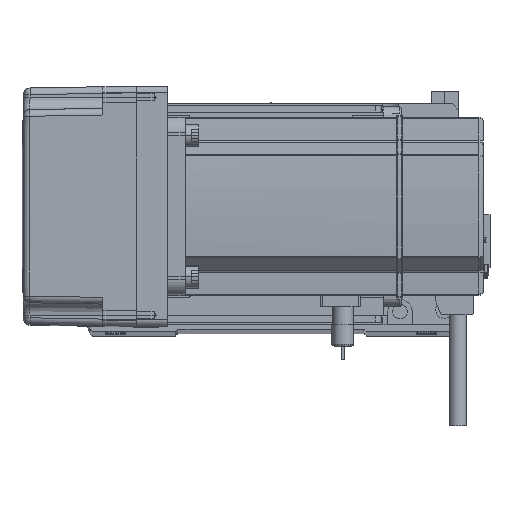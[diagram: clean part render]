
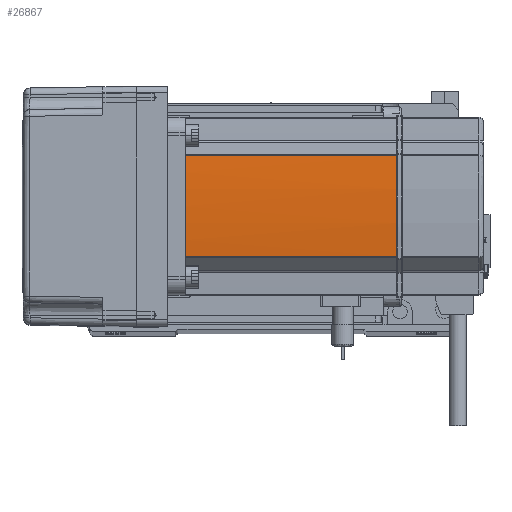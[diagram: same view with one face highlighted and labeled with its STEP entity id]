
A CAD part, top view. The second image highlights one B-rep face of the part: STEP entity #26867.
In plain terms, the highlighted cylindrical face has radius 270 mm (diameter 540 mm), a partial arc.
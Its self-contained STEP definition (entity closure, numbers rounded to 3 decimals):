
#1497 = DIRECTION ( 'NONE',  ( 0., 0., -1. ) ) ;
#3135 = EDGE_CURVE ( 'NONE', #11793, #19031, #27185, .T. ) ;
#3678 = DIRECTION ( 'NONE',  ( 0., 0., -1. ) ) ;
#5016 = CARTESIAN_POINT ( 'NONE',  ( 39.042, -22.724, 134. ) ) ;
#5933 = CIRCLE ( 'NONE', #38259, 270. ) ;
#6846 = ORIENTED_EDGE ( 'NONE', *, *, #58319, .T. ) ;
#9649 = EDGE_CURVE ( 'NONE', #58778, #56065, #5933, .T. ) ;
#11793 = VERTEX_POINT ( 'NONE', #36672 ) ;
#11936 = ORIENTED_EDGE ( 'NONE', *, *, #9649, .F. ) ;
#12635 = CARTESIAN_POINT ( 'NONE',  ( 40., -0.042, 134. ) ) ;
#12892 = FACE_OUTER_BOUND ( 'NONE', #30931, .T. ) ;
#13243 = DIRECTION ( 'NONE',  ( -1., 0., 0. ) ) ;
#17336 = DIRECTION ( 'NONE',  ( -1., 0., 0. ) ) ;
#19031 = VERTEX_POINT ( 'NONE', #19344 ) ;
#19344 = CARTESIAN_POINT ( 'NONE',  ( 40., 0.127, 134. ) ) ;
#19506 = VERTEX_POINT ( 'NONE', #5016 ) ;
#20071 = ORIENTED_EDGE ( 'NONE', *, *, #3135, .F. ) ;
#21472 = CYLINDRICAL_SURFACE ( 'NONE', #21855, 270. ) ;
#21855 = AXIS2_PLACEMENT_3D ( 'NONE', #22229, #49161, #13243 ) ;
#22229 = CARTESIAN_POINT ( 'NONE',  ( -230., 0., 58. ) ) ;
#22475 = VECTOR ( 'NONE', #57804, 1000. ) ;
#24924 = AXIS2_PLACEMENT_3D ( 'NONE', #46109, #1497, #28049 ) ;
#26430 = CARTESIAN_POINT ( 'NONE',  ( 39.042, -22.724, 39. ) ) ;
#26867 = ADVANCED_FACE ( 'NONE', ( #12892 ), #21472, .T. ) ;
#27185 = B_SPLINE_CURVE_WITH_KNOTS ( 'NONE', 3,
 ( #44196, #12635, #31089, #44600 ),
 .UNSPECIFIED., .F., .F.,
 ( 4, 4 ),
 ( 0., 1. ),
 .UNSPECIFIED. ) ;
#27260 = CIRCLE ( 'NONE', #33338, 270. ) ;
#28049 = DIRECTION ( 'NONE',  ( -1., 0., 0. ) ) ;
#29590 = VERTEX_POINT ( 'NONE', #47306 ) ;
#30458 = CIRCLE ( 'NONE', #24924, 270. ) ;
#30931 = EDGE_LOOP ( 'NONE', ( #36850, #11936, #6846, #36031, #20071, #45198 ) ) ;
#31089 = CARTESIAN_POINT ( 'NONE',  ( 40., 0.042, 134. ) ) ;
#31666 = LINE ( 'NONE', #57605, #22475 ) ;
#33338 = AXIS2_PLACEMENT_3D ( 'NONE', #58042, #3678, #17336 ) ;
#35016 = DIRECTION ( 'NONE',  ( 0., 0., -1. ) ) ;
#35369 = VECTOR ( 'NONE', #51227, 1000. ) ;
#36031 = ORIENTED_EDGE ( 'NONE', *, *, #49617, .T. ) ;
#36672 = CARTESIAN_POINT ( 'NONE',  ( 40., -0.127, 134. ) ) ;
#36850 = ORIENTED_EDGE ( 'NONE', *, *, #40665, .T. ) ;
#38259 = AXIS2_PLACEMENT_3D ( 'NONE', #39429, #35016, #52766 ) ;
#39429 = CARTESIAN_POINT ( 'NONE',  ( -230., 0., 39. ) ) ;
#40108 = EDGE_CURVE ( 'NONE', #11793, #19506, #30458, .T. ) ;
#40665 = EDGE_CURVE ( 'NONE', #19506, #56065, #51777, .T. ) ;
#42029 = CARTESIAN_POINT ( 'NONE',  ( 39.042, -22.724, 58. ) ) ;
#44196 = CARTESIAN_POINT ( 'NONE',  ( 40., -0.127, 134. ) ) ;
#44600 = CARTESIAN_POINT ( 'NONE',  ( 40., 0.127, 134. ) ) ;
#45198 = ORIENTED_EDGE ( 'NONE', *, *, #40108, .T. ) ;
#46109 = CARTESIAN_POINT ( 'NONE',  ( -230., 0., 134. ) ) ;
#47306 = CARTESIAN_POINT ( 'NONE',  ( 39.042, 22.724, 134. ) ) ;
#49161 = DIRECTION ( 'NONE',  ( 0., 0., -1. ) ) ;
#49617 = EDGE_CURVE ( 'NONE', #29590, #19031, #27260, .T. ) ;
#51227 = DIRECTION ( 'NONE',  ( 0., 0., -1. ) ) ;
#51777 = LINE ( 'NONE', #42029, #35369 ) ;
#52766 = DIRECTION ( 'NONE',  ( -1., 0., 0. ) ) ;
#54593 = CARTESIAN_POINT ( 'NONE',  ( 39.042, 22.724, 39. ) ) ;
#56065 = VERTEX_POINT ( 'NONE', #26430 ) ;
#57605 = CARTESIAN_POINT ( 'NONE',  ( 39.042, 22.724, 58. ) ) ;
#57804 = DIRECTION ( 'NONE',  ( 0., 0., 1. ) ) ;
#58042 = CARTESIAN_POINT ( 'NONE',  ( -230., 0., 134. ) ) ;
#58319 = EDGE_CURVE ( 'NONE', #58778, #29590, #31666, .T. ) ;
#58778 = VERTEX_POINT ( 'NONE', #54593 ) ;
